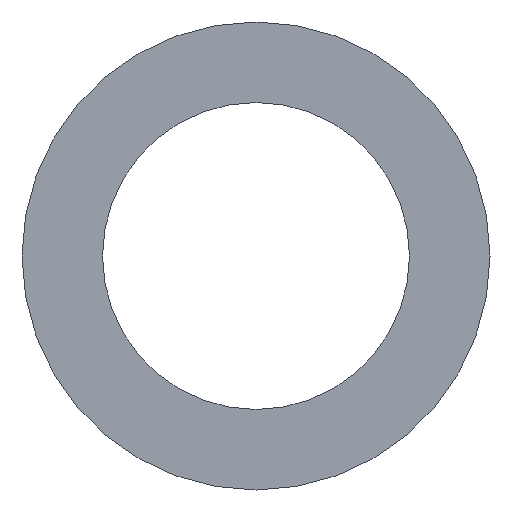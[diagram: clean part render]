
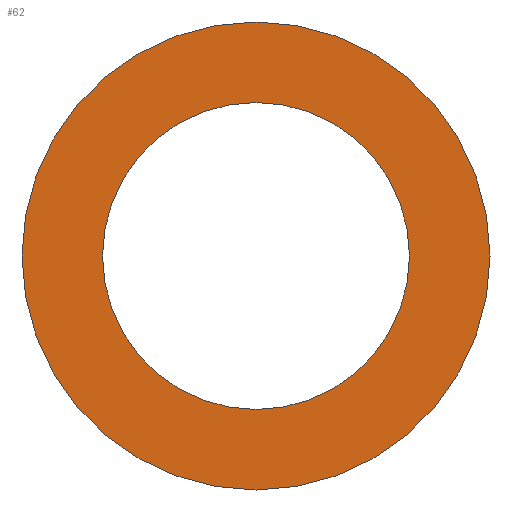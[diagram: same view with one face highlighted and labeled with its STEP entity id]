
A CAD part, front view. The second image highlights one B-rep face of the part: STEP entity #62.
In plain terms, the highlighted planar face has unit normal (0, -1, 0).
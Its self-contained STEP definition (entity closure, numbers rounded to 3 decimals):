
#20=PLANE('',#83);
#26=ORIENTED_EDGE('',*,*,#30,.T.);
#27=ORIENTED_EDGE('',*,*,#32,.F.);
#30=EDGE_CURVE('',#34,#34,#38,.T.);
#32=EDGE_CURVE('',#36,#36,#40,.T.);
#34=VERTEX_POINT('',#106);
#36=VERTEX_POINT('',#111);
#38=CIRCLE('',#78,71.5);
#40=CIRCLE('',#81,109.);
#46=EDGE_LOOP('',(#26));
#47=EDGE_LOOP('',(#27));
#54=FACE_BOUND('',#46,.T.);
#55=FACE_BOUND('',#47,.T.);
#62=ADVANCED_FACE('',(#54,#55),#20,.F.);
#78=AXIS2_PLACEMENT_3D('',#105,#89,#90);
#81=AXIS2_PLACEMENT_3D('',#110,#95,#96);
#83=AXIS2_PLACEMENT_3D('',#114,#99,#100);
#89=DIRECTION('',(0.,1.,0.));
#90=DIRECTION('',(1.,0.,0.));
#95=DIRECTION('',(0.,1.,0.));
#96=DIRECTION('',(1.,0.,0.));
#99=DIRECTION('',(0.,1.,0.));
#100=DIRECTION('',(0.,0.,1.));
#105=CARTESIAN_POINT('',(0.,-1.5,0.));
#106=CARTESIAN_POINT('',(71.5,-1.5,0.));
#110=CARTESIAN_POINT('',(0.,-1.5,0.));
#111=CARTESIAN_POINT('',(109.,-1.5,0.));
#114=CARTESIAN_POINT('',(0.,-1.5,0.));
